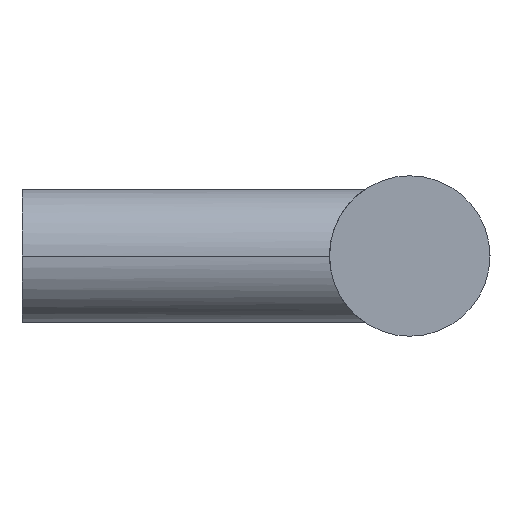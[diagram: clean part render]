
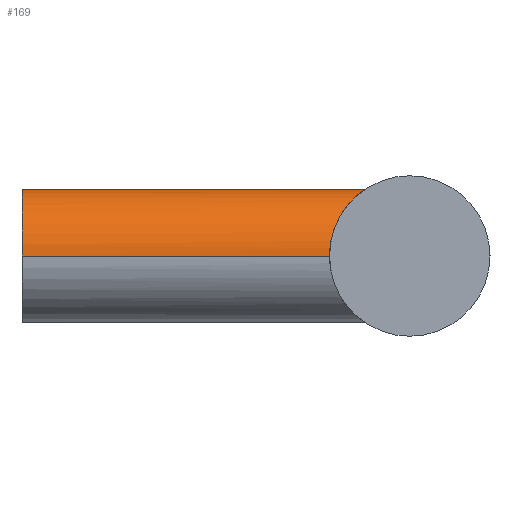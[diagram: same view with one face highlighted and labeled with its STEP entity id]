
A CAD part, left-side view. The second image highlights one B-rep face of the part: STEP entity #169.
In plain terms, the highlighted cylindrical face has radius 5 mm (diameter 10 mm), a partial arc.
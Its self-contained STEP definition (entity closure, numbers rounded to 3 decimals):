
#101 = VERTEX_POINT( '', #260 );
#115 = VERTEX_POINT( '', #276 );
#117 = VERTEX_POINT( '', #278 );
#135 = VERTEX_POINT( '', #300 );
#143 = EDGE_CURVE( '', #135, #101, #308, .T. );
#159 = EDGE_CURVE( '', #117, #215, #327, .T. );
#169 = ADVANCED_FACE( '', ( #337 ), #338, .T. );
#171 = EDGE_CURVE( '', #215, #135, #340, .T. );
#183 = EDGE_CURVE( '', #101, #115, #354, .T. );
#195 = EDGE_CURVE( '', #115, #117, #366, .T. );
#215 = VERTEX_POINT( '', #389 );
#260 = CARTESIAN_POINT( '', ( 5., -23., 0. ) );
#276 = CARTESIAN_POINT( '', ( 0., -25.683, 5. ) );
#278 = CARTESIAN_POINT( '', ( -5., -23., 0. ) );
#300 = CARTESIAN_POINT( '', ( 5., 0., 0. ) );
#308 = LINE( '', #483, #484 );
#327 = LINE( '', #539, #540 );
#337 = FACE_OUTER_BOUND( '', #571, .T. );
#338 = CYLINDRICAL_SURFACE( '', #572, 5. );
#340 = CIRCLE( '', #575, 5. );
#354 = B_SPLINE_CURVE_WITH_KNOTS( '', 3, ( #628, #629, #630, #631, #632, #633, #634, #635, #636, #637, #638, #639, #640, #641, #642, #643, #644, #645 ), .UNSPECIFIED., .F., .F., ( 4, 2, 2, 2, 2, 2, 2, 2, 4 ), ( 24.483, 25.482, 26.481, 27.479, 28.478, 29.52, 30.561, 31.602, 32.643 ), .UNSPECIFIED. );
#366 = B_SPLINE_CURVE_WITH_KNOTS( '', 3, ( #662, #663, #664, #665, #666, #667, #668, #669, #670, #671, #672, #673, #674, #675, #676, #677, #678, #679 ), .UNSPECIFIED., .F., .F., ( 4, 2, 2, 2, 2, 2, 2, 2, 4 ), ( 0., 1.041, 2.083, 3.124, 4.165, 5.164, 6.163, 7.162, 8.161 ), .UNSPECIFIED. );
#389 = CARTESIAN_POINT( '', ( -5., 0., 0. ) );
#483 = CARTESIAN_POINT( '', ( 5., 0., 0. ) );
#484 = VECTOR( '', #819, 1. );
#539 = CARTESIAN_POINT( '', ( -5., 0., 0. ) );
#540 = VECTOR( '', #843, 1. );
#571 = EDGE_LOOP( '', ( #849, #850, #851, #852, #853 ) );
#572 = AXIS2_PLACEMENT_3D( '', #854, #855, #856 );
#575 = AXIS2_PLACEMENT_3D( '', #857, #858, #859 );
#628 = CARTESIAN_POINT( '', ( 5., -23., 0. ) );
#629 = CARTESIAN_POINT( '', ( 5., -23., 0.333 ) );
#630 = CARTESIAN_POINT( '', ( 4.966, -23.028, 0.672 ) );
#631 = CARTESIAN_POINT( '', ( 4.83, -23.141, 1.335 ) );
#632 = CARTESIAN_POINT( '', ( 4.728, -23.225, 1.659 ) );
#633 = CARTESIAN_POINT( '', ( 4.467, -23.437, 2.272 ) );
#634 = CARTESIAN_POINT( '', ( 4.306, -23.566, 2.561 ) );
#635 = CARTESIAN_POINT( '', ( 3.946, -23.847, 3.088 ) );
#636 = CARTESIAN_POINT( '', ( 3.745, -24., 3.326 ) );
#637 = CARTESIAN_POINT( '', ( 3.317, -24.311, 3.754 ) );
#638 = CARTESIAN_POINT( '', ( 3.073, -24.483, 3.957 ) );
#639 = CARTESIAN_POINT( '', ( 2.544, -24.825, 4.316 ) );
#640 = CARTESIAN_POINT( '', ( 2.259, -24.995, 4.472 ) );
#641 = CARTESIAN_POINT( '', ( 1.659, -25.301, 4.728 ) );
#642 = CARTESIAN_POINT( '', ( 1.343, -25.436, 4.828 ) );
#643 = CARTESIAN_POINT( '', ( 0.687, -25.627, 4.964 ) );
#644 = CARTESIAN_POINT( '', ( 0.347, -25.683, 5. ) );
#645 = CARTESIAN_POINT( '', ( 0., -25.683, 5. ) );
#662 = CARTESIAN_POINT( '', ( 0., -25.683, 5. ) );
#663 = CARTESIAN_POINT( '', ( -0.347, -25.683, 5. ) );
#664 = CARTESIAN_POINT( '', ( -0.687, -25.627, 4.964 ) );
#665 = CARTESIAN_POINT( '', ( -1.343, -25.436, 4.828 ) );
#666 = CARTESIAN_POINT( '', ( -1.659, -25.301, 4.728 ) );
#667 = CARTESIAN_POINT( '', ( -2.259, -24.995, 4.472 ) );
#668 = CARTESIAN_POINT( '', ( -2.544, -24.825, 4.316 ) );
#669 = CARTESIAN_POINT( '', ( -3.073, -24.483, 3.957 ) );
#670 = CARTESIAN_POINT( '', ( -3.317, -24.311, 3.754 ) );
#671 = CARTESIAN_POINT( '', ( -3.745, -24., 3.326 ) );
#672 = CARTESIAN_POINT( '', ( -3.946, -23.847, 3.088 ) );
#673 = CARTESIAN_POINT( '', ( -4.306, -23.566, 2.561 ) );
#674 = CARTESIAN_POINT( '', ( -4.467, -23.437, 2.272 ) );
#675 = CARTESIAN_POINT( '', ( -4.728, -23.225, 1.659 ) );
#676 = CARTESIAN_POINT( '', ( -4.83, -23.141, 1.335 ) );
#677 = CARTESIAN_POINT( '', ( -4.966, -23.028, 0.672 ) );
#678 = CARTESIAN_POINT( '', ( -5., -23., 0.333 ) );
#679 = CARTESIAN_POINT( '', ( -5., -23., 0. ) );
#819 = DIRECTION( '', ( 0., -1., 0. ) );
#843 = DIRECTION( '', ( 0., 1., 0. ) );
#849 = ORIENTED_EDGE( '', *, *, #143, .F. );
#850 = ORIENTED_EDGE( '', *, *, #171, .F. );
#851 = ORIENTED_EDGE( '', *, *, #159, .F. );
#852 = ORIENTED_EDGE( '', *, *, #195, .F. );
#853 = ORIENTED_EDGE( '', *, *, #183, .F. );
#854 = CARTESIAN_POINT( '', ( 0., 0., 0. ) );
#855 = DIRECTION( '', ( 0., 1., 0. ) );
#856 = DIRECTION( '', ( 1., 0., 0. ) );
#857 = CARTESIAN_POINT( '', ( 0., 0., 0. ) );
#858 = DIRECTION( '', ( 0., 1., 0. ) );
#859 = DIRECTION( '', ( 1., 0., 0. ) );
